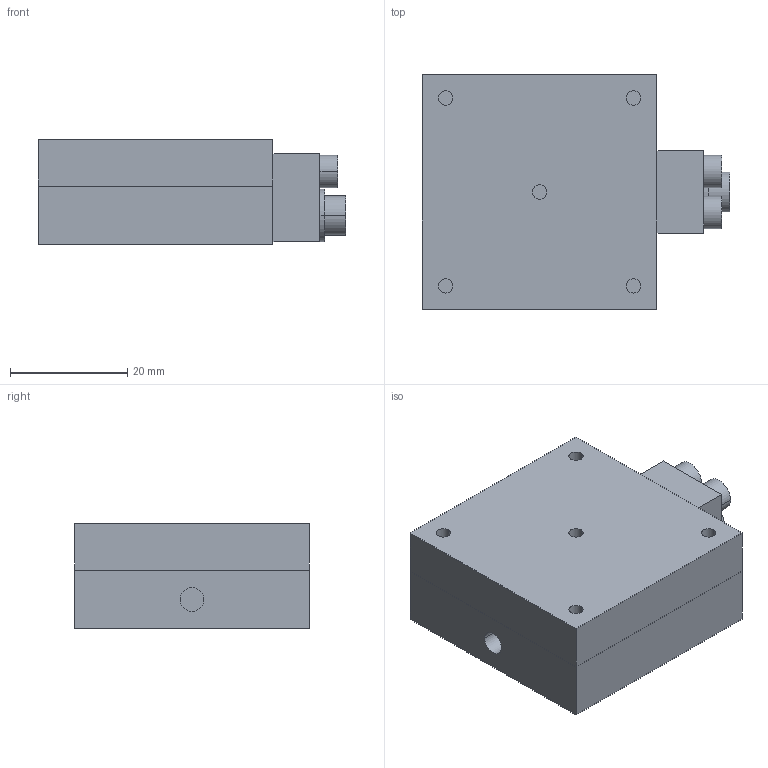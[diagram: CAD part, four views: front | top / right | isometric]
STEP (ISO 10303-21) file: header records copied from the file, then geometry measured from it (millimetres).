
FILE_DESCRIPTION(('CATIA V5 STEP','CAx-IF Rec.Pracs.--- Model Styling and Organization---1.4--- 2014-01-23','CAx-IF Rec.Pracs.---3D Tessellated Data Validation Properties---0.5---2014-09-14'),'2;1');
FILE_NAME('C:\Users\01084\Desktop\LKS-FR-40.stp','2024-09-30T06:48:29+00:00',('none'),('none'),'CATIA Version 5-6 Release 2018 SP6','CATIA V5 STEP AP242','none');
FILE_SCHEMA(('AP242_MANAGED_MODEL_BASED_3D_ENGINEERING_MIM_LF {1 0 10303 442 1 1 4}'));
Length unit declared in the file: millimetre
Products named in the file (3): LKS-FR-40; Base_40; Table_40
Assembly tree (2 placements, depth 2):
  LKS-FR-40
    Base_40
    Table_40
Bounding box: 52.4 x 40 x 18 mm (x, y, z)
Volume: 28003.5 mm3; surface area: 11618.2 mm2
Topology: 2 solids, 2 shells, 94 faces, 226 edges, 151 vertices
Faces by surface type: plane 48, cylinder 46
Entity records: 2616 total; most frequent: ORIENTED_EDGE 452, CARTESIAN_POINT 446, DIRECTION 364, EDGE_CURVE 226, AXIS2_PLACEMENT_3D 162, VERTEX_POINT 151, VECTOR 133, LINE 133
